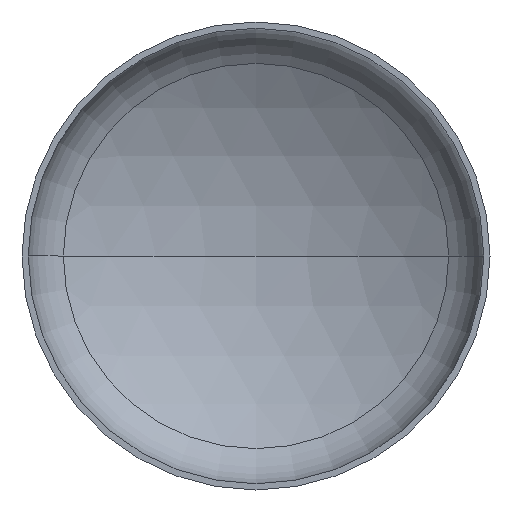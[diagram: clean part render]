
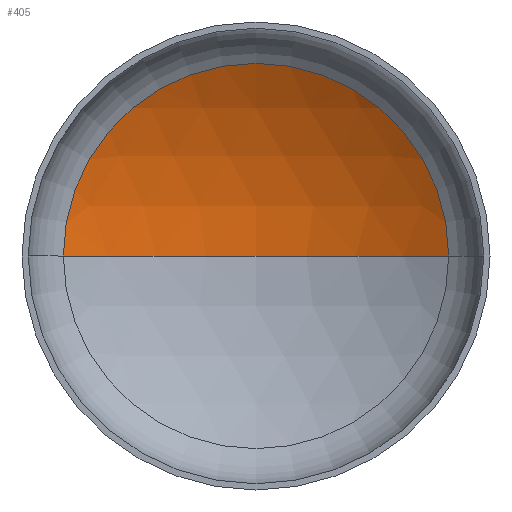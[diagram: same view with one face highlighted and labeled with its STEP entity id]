
A CAD part, front view. The second image highlights one B-rep face of the part: STEP entity #405.
In plain terms, the highlighted spherical face has radius 5600 mm.
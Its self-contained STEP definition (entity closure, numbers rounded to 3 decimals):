
#10 = CARTESIAN_POINT ( 'NONE',  ( 0., -3775.58, 0. ) ) ;
#26 = VERTEX_POINT ( 'NONE', #272 ) ;
#40 = VERTEX_POINT ( 'NONE', #256 ) ;
#53 = CIRCLE ( 'NONE', #88, 5600. ) ;
#59 = ORIENTED_EDGE ( 'NONE', *, *, #152, .T. ) ;
#70 = FACE_OUTER_BOUND ( 'NONE', #104, .T. ) ;
#73 = ORIENTED_EDGE ( 'NONE', *, *, #153, .T. ) ;
#74 = CARTESIAN_POINT ( 'NONE',  ( 2881.77, 1026.024, 0. ) ) ;
#82 = AXIS2_PLACEMENT_3D ( 'NONE', #10, #398, #149 ) ;
#88 = AXIS2_PLACEMENT_3D ( 'NONE', #211, #209, #283 ) ;
#94 = AXIS2_PLACEMENT_3D ( 'NONE', #201, #202, #203 ) ;
#104 = EDGE_LOOP ( 'NONE', ( #108, #73, #59 ) ) ;
#108 = ORIENTED_EDGE ( 'NONE', *, *, #155, .F. ) ;
#125 = VERTEX_POINT ( 'NONE', #74 ) ;
#149 = DIRECTION ( 'NONE',  ( 1., 0., 0. ) ) ;
#152 = EDGE_CURVE ( 'NONE', #125, #26, #205, .T. ) ;
#153 = EDGE_CURVE ( 'NONE', #40, #125, #53, .T. ) ;
#155 = EDGE_CURVE ( 'NONE', #40, #26, #319, .T. ) ;
#198 = AXIS2_PLACEMENT_3D ( 'NONE', #386, #218, #348 ) ;
#201 = CARTESIAN_POINT ( 'NONE',  ( 0., 1026.024, 0. ) ) ;
#202 = DIRECTION ( 'NONE',  ( 0., -1., 0. ) ) ;
#203 = DIRECTION ( 'NONE',  ( 1., 0., 0. ) ) ;
#205 = CIRCLE ( 'NONE', #94, 2881.77 ) ;
#209 = DIRECTION ( 'NONE',  ( 0., 0., -1. ) ) ;
#211 = CARTESIAN_POINT ( 'NONE',  ( 0., -3775.58, 0. ) ) ;
#218 = DIRECTION ( 'NONE',  ( 0., 0., -1. ) ) ;
#256 = CARTESIAN_POINT ( 'NONE',  ( 0., 1824.42, 0. ) ) ;
#272 = CARTESIAN_POINT ( 'NONE',  ( -2881.77, 1026.024, 0. ) ) ;
#283 = DIRECTION ( 'NONE',  ( -1., 0., 0. ) ) ;
#319 = CIRCLE ( 'NONE', #82, 5600. ) ;
#321 = SPHERICAL_SURFACE ( 'NONE', #198, 5600. ) ;
#348 = DIRECTION ( 'NONE',  ( -1., 0., 0. ) ) ;
#386 = CARTESIAN_POINT ( 'NONE',  ( 0., -3775.58, 0. ) ) ;
#398 = DIRECTION ( 'NONE',  ( 0., 0., 1. ) ) ;
#405 = ADVANCED_FACE ( 'NONE', ( #70 ), #321, .F. ) ;
